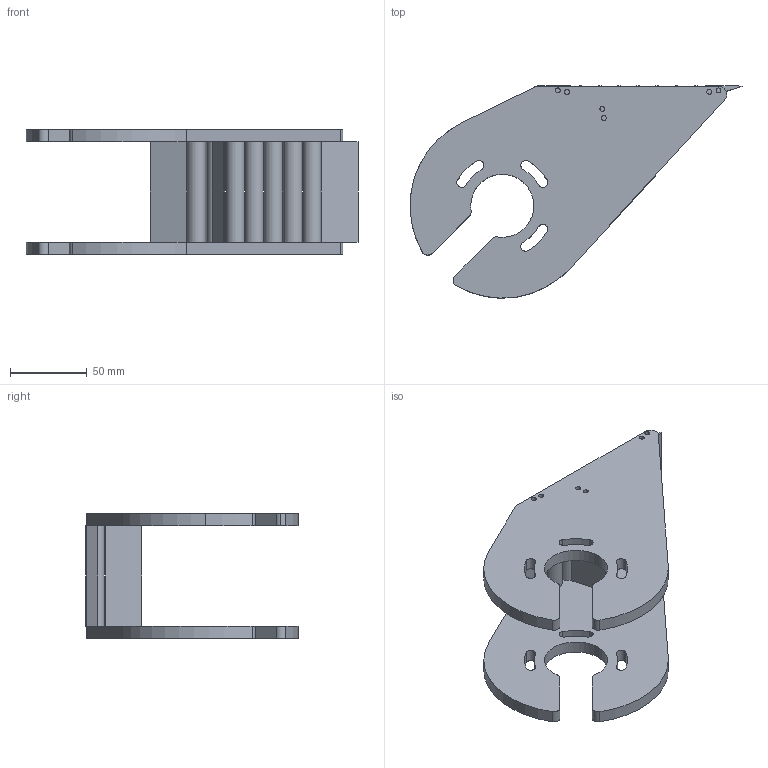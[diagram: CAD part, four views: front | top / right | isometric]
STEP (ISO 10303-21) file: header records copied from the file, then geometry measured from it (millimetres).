
FILE_DESCRIPTION (( 'STEP AP214' ), '1' );
FILE_NAME ('FSTB A65FI.STEP', '2024-01-31T08:47:07', ( '' ), ( '' ), 'SwSTEP 2.0', 'SolidWorks 2022', '' );
FILE_SCHEMA (( 'AUTOMOTIVE_DESIGN' ));
Length unit declared in the file: millimetre
Products named in the file (1): FSTB A65FI
Bounding box: 215.78 x 138.09 x 81 mm (x, y, z)
Volume: 311395.1 mm3; surface area: 103268.6 mm2
Topology: 1 solids, 1 shells, 234 faces, 672 edges, 436 vertices
Faces by surface type: cylinder 136, plane 98
Entity records: 8418 total; most frequent: DIRECTION 1446, ORIENTED_EDGE 1344, CARTESIAN_POINT 1343, EDGE_CURVE 672, AXIS2_PLACEMENT_3D 539, VERTEX_POINT 436, VECTOR 368, LINE 368
